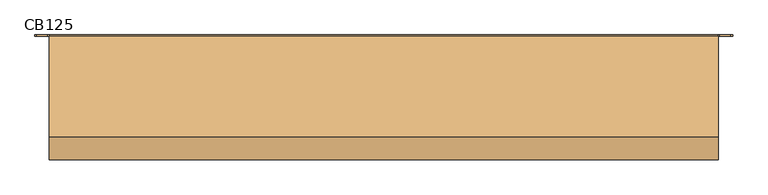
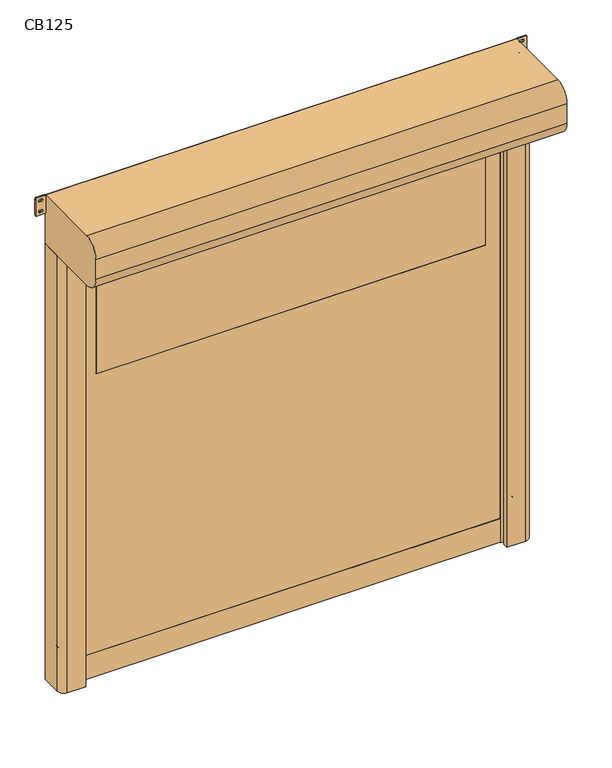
"""IFC4 building model written with IfcOpenShell, lengths in millimetres: door geometry, DO_WPB_Dynamicroll Cleanroom_BMP : CB125."""

import ifcopenshell
import ifcopenshell.guid

model = None  # the IFC model being written
_history = None  # IfcOwnerHistory: only IFC2X3 demands one
_inside = {}  # id of a spatial element -> (the spatial element, [elements in it])
_under = {}  # id of a project, library or spatial element -> (it, [spatial elements below it])
_declared = {}  # id of a project -> (the project, [libraries it declares])
_typed = {}  # id of a type object -> (the type object, [elements of that type])
_made_of = {}  # id of a material, layer set ... -> (it, [elements and type objects made of it])


def new_model(schema):
    """Start an empty IFC model of exactly this schema.

    Asked for "IFC4X3", IfcOpenShell would pick the latest addendum, in which some entities
    have other attributes; the version numbers below select the first issue.
    IFC2X3 requires an IfcOwnerHistory on every rooted entity: one is made here for all.
    """
    global model, _history
    if schema == "IFC4X3":
        model = ifcopenshell.file(schema_version=(4, 3, 0, 0))
    else:
        model = ifcopenshell.file(schema=schema)
    _inside.clear()
    _under.clear()
    _declared.clear()
    _typed.clear()
    _made_of.clear()
    _history = None
    if model.schema == "IFC2X3":
        org = make("IfcOrganization", Name="unknown")
        user = make(
            "IfcPersonAndOrganization",
            ThePerson=make("IfcPerson", FamilyName="unknown"),
            TheOrganization=org,
        )
        app = make(
            "IfcApplication",
            ApplicationDeveloper=org,
            Version="unknown",
            ApplicationFullName="unknown",
            ApplicationIdentifier="unknown",
        )
        _history = make(
            "IfcOwnerHistory",
            OwningUser=user,
            OwningApplication=app,
            ChangeAction="ADDED",
            CreationDate=0,
        )
    return model


def make(cls, **values):
    """One entity of the class cls with the attributes given. An attribute that is None is left unset."""
    return model.create_entity(
        cls, **{name: value for name, value in values.items() if value is not None}
    )


def rooted(cls, **values):
    """An entity with a GlobalId (a new one), such as an element, a storey or a relation."""
    return make(cls, GlobalId=ifcopenshell.guid.new(), OwnerHistory=_history, **values)


def si_unit(unit_type, name, prefix=None):
    """IfcSIUnit, for example si_unit("LENGTHUNIT", "METRE", prefix="MILLI")."""
    return make("IfcSIUnit", UnitType=unit_type, Prefix=prefix, Name=name)


def assignment(units):
    """IfcUnitAssignment: the units of a project."""
    return None if units is None else make("IfcUnitAssignment", Units=units)


def point(xyz):
    """IfcCartesianPoint."""
    return None if xyz is None else make("IfcCartesianPoint", Coordinates=xyz)


def direction(xyz):
    """IfcDirection."""
    return None if xyz is None else make("IfcDirection", DirectionRatios=xyz)


def frame(location, z_axis=None, x_axis=None):
    """IfcAxis2Placement3D, a coordinate frame: its origin and axes. An axis left out is left unset."""
    return make(
        "IfcAxis2Placement3D",
        Location=point(location),
        Axis=direction(z_axis),
        RefDirection=direction(x_axis),
    )


def frame_2d(location, x_axis=None):
    """IfcAxis2Placement2D, a coordinate frame in the plane: its origin and x axis."""
    return make(
        "IfcAxis2Placement2D", Location=point(location), RefDirection=direction(x_axis)
    )


def origin():
    """The frame at (0, 0, 0) with its axes left unset."""
    return frame((0.0, 0.0, 0.0))


def origin_with_axes():
    """The frame at (0, 0, 0) with the z axis (0, 0, 1) and the x axis (1, 0, 0) written out."""
    return frame((0.0, 0.0, 0.0), z_axis=(0.0, 0.0, 1.0), x_axis=(1.0, 0.0, 0.0))


def place(relative_to, where):
    """IfcLocalPlacement: puts the frame where relative to a parent placement (None: the world)."""
    return make(
        "IfcLocalPlacement", PlacementRelTo=relative_to, RelativePlacement=where
    )


def context(
    kind, dimensions, precision=None, world=None, true_north=None, identifier=None
):
    """IfcGeometricRepresentationContext, for example the 3D "Model" context."""
    return make(
        "IfcGeometricRepresentationContext",
        ContextIdentifier=identifier,
        ContextType=kind,
        CoordinateSpaceDimension=dimensions,
        Precision=precision,
        WorldCoordinateSystem=world,
        TrueNorth=true_north,
    )


def project(units=None, contexts=None):
    """IfcProject with its units and contexts."""
    return rooted(
        "IfcProject",
        Name="project",
        RepresentationContexts=contexts,
        UnitsInContext=assignment(units),
    )


def spatial(cls, under=None, at=None, **own):
    """A site, building, storey or space (cls), placed at a placement, below another one or the project."""
    s = rooted(cls, ObjectPlacement=at, **own)
    if under is not None:
        _under.setdefault(under.id(), (under, []))[1].append(s)
    return s


def polyline(points):
    """IfcPolyline through the points."""
    return make("IfcPolyline", Points=[point(p) for p in points])


def circle_curve(where, radius):
    """IfcCircle in the frame where."""
    return make("IfcCircle", Position=where, Radius=radius)


def trimmed(basis, trim1, trim2, sense, master):
    """IfcTrimmedCurve: the piece of a basis curve between two trims."""
    return make(
        "IfcTrimmedCurve",
        BasisCurve=basis,
        Trim1=trim1,
        Trim2=trim2,
        SenseAgreement=sense,
        MasterRepresentation=master,
    )


def segment(curve, same_sense, transition):
    """IfcCompositeCurveSegment."""
    return make(
        "IfcCompositeCurveSegment",
        Transition=transition,
        SameSense=same_sense,
        ParentCurve=curve,
    )


def composite_curve(segments, self_intersect=None):
    """IfcCompositeCurve: segments joined end to end."""
    return make("IfcCompositeCurve", Segments=segments, SelfIntersect=self_intersect)


def outline(outer, holes=None, kind="AREA"):
    """IfcArbitraryClosedProfileDef: a profile drawn as a closed curve; with holes, ...WithVoids."""
    if holes is None:
        return make("IfcArbitraryClosedProfileDef", ProfileType=kind, OuterCurve=outer)
    return make(
        "IfcArbitraryProfileDefWithVoids",
        ProfileType=kind,
        OuterCurve=outer,
        InnerCurves=holes,
    )


def extrude(swept, where, along, depth):
    """IfcExtrudedAreaSolid: the profile swept, set in the frame where, extruded along a direction by depth."""
    return make(
        "IfcExtrudedAreaSolid",
        SweptArea=swept,
        Position=where,
        ExtrudedDirection=direction(along),
        Depth=depth,
    )


def shape(context_of_items, identifier, shape_type, items):
    """IfcShapeRepresentation: the items that make up one representation, for example the "Body"."""
    return make(
        "IfcShapeRepresentation",
        ContextOfItems=context_of_items,
        RepresentationIdentifier=identifier,
        RepresentationType=shape_type,
        Items=items,
    )


def source(mapping_origin, context_of_items, identifier, shape_type, items):
    """IfcRepresentationMap: a shape defined once, which mapped items show again and again."""
    return make(
        "IfcRepresentationMap",
        MappingOrigin=mapping_origin,
        MappedRepresentation=shape(context_of_items, identifier, shape_type, items),
    )


def transform(
    local_origin,
    x_axis=None,
    y_axis=None,
    z_axis=None,
    scale=None,
    scale2=None,
    scale3=None,
    uniform=True,
):
    """IfcCartesianTransformationOperator3D, or its non-uniform kind. x_axis, y_axis, z_axis: its Axis1, 2, 3."""
    if uniform:
        return make(
            "IfcCartesianTransformationOperator3D",
            Axis1=direction(x_axis),
            Axis2=direction(y_axis),
            LocalOrigin=point(local_origin),
            Scale=scale,
            Axis3=direction(z_axis),
        )
    return make(
        "IfcCartesianTransformationOperator3DnonUniform",
        Axis1=direction(x_axis),
        Axis2=direction(y_axis),
        LocalOrigin=point(local_origin),
        Scale=scale,
        Axis3=direction(z_axis),
        Scale2=scale2,
        Scale3=scale3,
    )


def mapped(mapping_source, mapping_target):
    """IfcMappedItem: shows the shape of a source again, moved by a transform."""
    return make(
        "IfcMappedItem", MappingSource=mapping_source, MappingTarget=mapping_target
    )


def made_of(thing, what):
    """Note that an element or type object is made of a material, layer set ...; save() writes the relation."""
    if what is not None:
        _made_of.setdefault(what.id(), (what, []))[1].append(thing)
    return thing


def element(
    cls,
    number,
    at=None,
    inside=None,
    cuts=None,
    type_object=None,
    material=None,
    context=None,
    identifier="Body",
    shape_type=None,
    held_by="IfcProductDefinitionShape",
    body=None,
    shapes=None,
    **own,
):
    """One element of the class cls, such as IfcWall. Its Tag is "e" and its number.

    at: its placement. inside: the storey or other place that contains it. cuts: it is an
    opening in that element (IfcRelVoidsElement). A single representation is given by context,
    identifier, shape_type and body (its items); several are given by shapes. held_by: the class
    of the entity that holds the representations. save() writes the other relations.
    """
    e = rooted(cls, Tag="e%d" % number, ObjectPlacement=at, **own)
    if body is not None:
        shapes = [shape(context, identifier, shape_type, body)]
    if shapes is not None:
        e.Representation = make(held_by, Representations=shapes)
    if inside is not None:
        _inside.setdefault(inside.id(), (inside, []))[1].append(e)
    if cuts is not None:
        rooted(
            "IfcRelVoidsElement", RelatingBuildingElement=cuts, RelatedOpeningElement=e
        )
    if type_object is not None:
        _typed.setdefault(type_object.id(), (type_object, []))[1].append(e)
    return made_of(e, material)


def aggregate(whole, parts):
    """IfcRelAggregates: a whole, such as a stair, and the parts it consists of."""
    return rooted("IfcRelAggregates", RelatingObject=whole, RelatedObjects=parts)


def save(model, path):
    """Write the relations noted so far, then the file.

    IfcRelAggregates (storeys below a building ...), IfcRelContainedInSpatialStructure (elements
    in a storey), IfcRelDefinesByType, IfcRelAssociatesMaterial and IfcRelDeclares: one each for
    every whole, place, type object, material and project.
    """
    for whole, parts in _under.values():
        aggregate(whole, parts)
    for where, things in _inside.values():
        rooted(
            "IfcRelContainedInSpatialStructure",
            RelatedElements=things,
            RelatingStructure=where,
        )
    for kind, things in _typed.values():
        rooted("IfcRelDefinesByType", RelatedObjects=things, RelatingType=kind)
    for what, things in _made_of.values():
        rooted("IfcRelAssociatesMaterial", RelatedObjects=things, RelatingMaterial=what)
    for by, libraries in _declared.values():
        rooted("IfcRelDeclares", RelatingContext=by, RelatedDefinitions=libraries)
    model.write(path)


def cb125_eadb58d3(model_context):
    return source(origin(), model_context, "Body", "SweptSolid", [
        extrude(outline(composite_curve([segment(trimmed(circle_curve(frame_2d((1416.6666667, 1076.0)), 6.0), [point((1422.6666667, 1076.0))], [point((1410.6666667, 1076.0))], False, "CARTESIAN"), True, "CONTINUOUS"), segment(polyline([(1410.6666667, 1076.0), (1410.6666667, 1094.0)]), True, "CONTINUOUS"), segment(trimmed(circle_curve(frame_2d((1416.6666667, 1094.0)), 6.0), [point((1410.6666667, 1094.0))], [point((1422.6666667, 1094.0))], False, "CARTESIAN"), True, "CONTINUOUS"), segment(polyline([(1422.6666667, 1094.0), (1422.6666667, 1076.0)]), True, "CONTINUOUS")], self_intersect=False)), frame((0.0, -20.0, 0.0), z_axis=(0.0, 1.0, 0.0), x_axis=(0.0, 0.0, 1.0)), (0.0, 0.0, 1.0), 20.0),
        extrude(outline(composite_curve([segment(trimmed(circle_curve(frame_2d((783.3333333, 1076.0)), 6.0), [point((789.3333333, 1076.0))], [point((777.3333333, 1076.0))], False, "CARTESIAN"), True, "CONTINUOUS"), segment(polyline([(777.3333333, 1076.0), (777.3333333, 1094.0)]), True, "CONTINUOUS"), segment(trimmed(circle_curve(frame_2d((783.3333333, 1094.0)), 6.0), [point((777.3333333, 1094.0))], [point((789.3333333, 1094.0))], False, "CARTESIAN"), True, "CONTINUOUS"), segment(polyline([(789.3333333, 1094.0), (789.3333333, 1076.0)]), True, "CONTINUOUS")], self_intersect=False)), frame((0.0, -20.0, 0.0), z_axis=(0.0, 1.0, 0.0), x_axis=(0.0, 0.0, 1.0)), (0.0, 0.0, 1.0), 20.0),
        extrude(outline(composite_curve([segment(trimmed(circle_curve(frame_2d((2050.0, 1076.0)), 6.0), [point((2056.0, 1076.0))], [point((2044.0, 1076.0))], False, "CARTESIAN"), True, "CONTINUOUS"), segment(polyline([(2044.0, 1076.0), (2044.0, 1094.0)]), True, "CONTINUOUS"), segment(trimmed(circle_curve(frame_2d((2050.0, 1094.0)), 6.0), [point((2044.0, 1094.0))], [point((2056.0, 1094.0))], False, "CARTESIAN"), True, "CONTINUOUS"), segment(polyline([(2056.0, 1094.0), (2056.0, 1076.0)]), True, "CONTINUOUS")], self_intersect=False)), frame((0.0, -20.0, 0.0), z_axis=(0.0, 1.0, 0.0), x_axis=(0.0, 0.0, 1.0)), (0.0, 0.0, 1.0), 20.0),
        extrude(outline(composite_curve([segment(trimmed(circle_curve(frame_2d((150.0, 1076.0)), 6.0), [point((156.0, 1076.0))], [point((144.0, 1076.0))], False, "CARTESIAN"), True, "CONTINUOUS"), segment(polyline([(144.0, 1076.0), (144.0, 1094.0)]), True, "CONTINUOUS"), segment(trimmed(circle_curve(frame_2d((150.0, 1094.0)), 6.0), [point((144.0, 1094.0))], [point((156.0, 1094.0))], False, "CARTESIAN"), True, "CONTINUOUS"), segment(polyline([(156.0, 1094.0), (156.0, 1076.0)]), True, "CONTINUOUS")], self_intersect=False)), frame((0.0, -20.0, 0.0), z_axis=(0.0, 1.0, 0.0), x_axis=(0.0, 0.0, 1.0)), (0.0, 0.0, 1.0), 20.0),
        extrude(outline(composite_curve([segment(polyline([(1422.6666667, -1076.0), (1422.6666667, -1094.0)]), True, "CONTINUOUS"), segment(trimmed(circle_curve(frame_2d((1416.6666667, -1094.0)), 6.0), [point((1422.6666667, -1094.0))], [point((1410.6666667, -1094.0))], False, "CARTESIAN"), True, "CONTINUOUS"), segment(polyline([(1410.6666667, -1094.0), (1410.6666667, -1076.0)]), True, "CONTINUOUS"), segment(trimmed(circle_curve(frame_2d((1416.6666667, -1076.0)), 6.0), [point((1410.6666667, -1076.0))], [point((1422.6666667, -1076.0))], False, "CARTESIAN"), True, "CONTINUOUS")], self_intersect=False)), frame((0.0, -20.0, 0.0), z_axis=(0.0, 1.0, 0.0), x_axis=(0.0, 0.0, 1.0)), (0.0, 0.0, 1.0), 20.0),
        extrude(outline(composite_curve([segment(polyline([(789.3333333, -1076.0), (789.3333333, -1094.0)]), True, "CONTINUOUS"), segment(trimmed(circle_curve(frame_2d((783.3333333, -1094.0)), 6.0), [point((789.3333333, -1094.0))], [point((777.3333333, -1094.0))], False, "CARTESIAN"), True, "CONTINUOUS"), segment(polyline([(777.3333333, -1094.0), (777.3333333, -1076.0)]), True, "CONTINUOUS"), segment(trimmed(circle_curve(frame_2d((783.3333333, -1076.0)), 6.0), [point((777.3333333, -1076.0))], [point((789.3333333, -1076.0))], False, "CARTESIAN"), True, "CONTINUOUS")], self_intersect=False)), frame((0.0, -20.0, 0.0), z_axis=(0.0, 1.0, 0.0), x_axis=(0.0, 0.0, 1.0)), (0.0, 0.0, 1.0), 20.0),
        extrude(outline(composite_curve([segment(polyline([(2056.0, -1076.0), (2056.0, -1094.0)]), True, "CONTINUOUS"), segment(trimmed(circle_curve(frame_2d((2050.0, -1094.0)), 6.0), [point((2056.0, -1094.0))], [point((2044.0, -1094.0))], False, "CARTESIAN"), True, "CONTINUOUS"), segment(polyline([(2044.0, -1094.0), (2044.0, -1076.0)]), True, "CONTINUOUS"), segment(trimmed(circle_curve(frame_2d((2050.0, -1076.0)), 6.0), [point((2044.0, -1076.0))], [point((2056.0, -1076.0))], False, "CARTESIAN"), True, "CONTINUOUS")], self_intersect=False)), frame((0.0, -20.0, 0.0), z_axis=(0.0, 1.0, 0.0), x_axis=(0.0, 0.0, 1.0)), (0.0, 0.0, 1.0), 20.0),
        extrude(outline(composite_curve([segment(polyline([(156.0, -1076.0), (156.0, -1094.0)]), True, "CONTINUOUS"), segment(trimmed(circle_curve(frame_2d((150.0, -1094.0)), 6.0), [point((156.0, -1094.0))], [point((144.0, -1094.0))], False, "CARTESIAN"), True, "CONTINUOUS"), segment(polyline([(144.0, -1094.0), (144.0, -1076.0)]), True, "CONTINUOUS"), segment(trimmed(circle_curve(frame_2d((150.0, -1076.0)), 6.0), [point((144.0, -1076.0))], [point((156.0, -1076.0))], False, "CARTESIAN"), True, "CONTINUOUS")], self_intersect=False)), frame((0.0, -20.0, 0.0), z_axis=(0.0, 1.0, 0.0), x_axis=(0.0, 0.0, 1.0)), (0.0, 0.0, 1.0), 20.0),
        extrude(outline(composite_curve([segment(trimmed(circle_curve(frame_2d((1526.0, 929.0)), 1.0), [point((1525.0, 929.0))], [point((1526.0, 930.0))], False, "CARTESIAN"), True, "CONTINUOUS"), segment(polyline([(1526.0, 930.0), (2024.0, 930.0)]), True, "CONTINUOUS"), segment(trimmed(circle_curve(frame_2d((2024.0, 929.0)), 1.0), [point((2024.0, 930.0))], [point((2025.0, 929.0))], False, "CARTESIAN"), True, "CONTINUOUS"), segment(polyline([(2025.0, 929.0), (2025.0, -929.0)]), True, "CONTINUOUS"), segment(trimmed(circle_curve(frame_2d((2024.0, -929.0)), 1.0), [point((2025.0, -929.0))], [point((2024.0, -930.0))], False, "CARTESIAN"), True, "CONTINUOUS"), segment(polyline([(2024.0, -930.0), (1526.0, -930.0)]), True, "CONTINUOUS"), segment(trimmed(circle_curve(frame_2d((1526.0, -929.0)), 1.0), [point((1526.0, -930.0))], [point((1525.0, -929.0))], False, "CARTESIAN"), True, "CONTINUOUS"), segment(polyline([(1525.0, -929.0), (1525.0, 929.0)]), True, "CONTINUOUS")], self_intersect=False)), frame((0.0, -83.5, 0.0), z_axis=(0.0, 1.0, 0.0), x_axis=(0.0, 0.0, 1.0)), (0.0, 0.0, 1.0), 7.0),
        extrude(outline(polyline([(120.0, -1012.0), (120.0, 1012.0), (2325.0, 1012.0), (2325.0, -1012.0), (120.0, -1012.0)]), holes=[composite_curve([segment(trimmed(circle_curve(frame_2d((1526.0, 929.0)), 1.0), [point((1526.0, 930.0))], [point((1525.0, 929.0))], True, "CARTESIAN"), True, "CONTINUOUS"), segment(polyline([(1525.0, 929.0), (1525.0, -929.0)]), True, "CONTINUOUS"), segment(trimmed(circle_curve(frame_2d((1526.0, -929.0)), 1.0), [point((1525.0, -929.0))], [point((1526.0, -930.0))], True, "CARTESIAN"), True, "CONTINUOUS"), segment(polyline([(1526.0, -930.0), (2024.0, -930.0)]), True, "CONTINUOUS"), segment(trimmed(circle_curve(frame_2d((2024.0, -929.0)), 1.0), [point((2024.0, -930.0))], [point((2025.0, -929.0))], True, "CARTESIAN"), True, "CONTINUOUS"), segment(polyline([(2025.0, -929.0), (2025.0, 929.0)]), True, "CONTINUOUS"), segment(trimmed(circle_curve(frame_2d((2024.0, 929.0)), 1.0), [point((2025.0, 929.0))], [point((2024.0, 930.0))], True, "CARTESIAN"), True, "CONTINUOUS"), segment(polyline([(2024.0, 930.0), (1526.0, 930.0)]), True, "CONTINUOUS")], self_intersect=False)]), frame((0.0, -83.5, 0.0), z_axis=(0.0, 1.0, 0.0), x_axis=(0.0, 0.0, 1.0)), (0.0, 0.0, 1.0), 7.0),
        extrude(outline(polyline([(-1012.0, -74.5), (1012.0, -74.5), (1012.0, -85.5), (-1012.0, -85.5), (-1012.0, -74.5)])), origin_with_axes(), (0.0, 0.0, 1.0), 120.0),
        extrude(outline(composite_curve([segment(trimmed(circle_curve(frame_2d((2363.75, 1130.75)), 5.75), [point((2363.75, 1125.0))], [point((2358.0, 1130.75))], False, "CARTESIAN"), True, "CONTINUOUS"), segment(polyline([(2358.0, 1130.75), (2358.0, 1168.25)]), True, "CONTINUOUS"), segment(trimmed(circle_curve(frame_2d((2363.75, 1168.25)), 5.75), [point((2358.0, 1168.25))], [point((2363.75, 1174.0))], False, "CARTESIAN"), True, "CONTINUOUS"), segment(polyline([(2363.75, 1174.0), (2444.25, 1174.0)]), True, "CONTINUOUS"), segment(trimmed(circle_curve(frame_2d((2444.25, 1168.25)), 5.75), [point((2444.25, 1174.0))], [point((2450.0, 1168.25))], False, "CARTESIAN"), True, "CONTINUOUS"), segment(polyline([(2450.0, 1168.25), (2450.0, 1130.75)]), True, "CONTINUOUS"), segment(trimmed(circle_curve(frame_2d((2444.25, 1130.75)), 5.75), [point((2450.0, 1130.75))], [point((2444.25, 1125.0))], False, "CARTESIAN"), True, "CONTINUOUS"), segment(polyline([(2444.25, 1125.0), (2363.75, 1125.0)]), True, "CONTINUOUS")], self_intersect=False), holes=[composite_curve([segment(trimmed(circle_curve(frame_2d((2431.5, 1153.75)), 5.75), [point((2437.25, 1153.75))], [point((2425.75, 1153.75))], True, "CARTESIAN"), True, "CONTINUOUS"), segment(polyline([(2425.75, 1153.75), (2425.75, 1145.25)]), True, "CONTINUOUS"), segment(trimmed(circle_curve(frame_2d((2431.5, 1145.25)), 5.75), [point((2425.75, 1145.25))], [point((2437.25, 1145.25))], True, "CARTESIAN"), True, "CONTINUOUS"), segment(polyline([(2437.25, 1145.25), (2437.25, 1153.75)]), True, "CONTINUOUS")], self_intersect=False), composite_curve([segment(trimmed(circle_curve(frame_2d((2376.5, 1153.75)), 5.75), [point((2382.25, 1153.75))], [point((2370.75, 1153.75))], True, "CARTESIAN"), True, "CONTINUOUS"), segment(polyline([(2370.75, 1153.75), (2370.75, 1145.25)]), True, "CONTINUOUS"), segment(trimmed(circle_curve(frame_2d((2376.5, 1145.25)), 5.75), [point((2370.75, 1145.25))], [point((2382.25, 1145.25))], True, "CARTESIAN"), True, "CONTINUOUS"), segment(polyline([(2382.25, 1145.25), (2382.25, 1153.75)]), True, "CONTINUOUS")], self_intersect=False)]), frame((0.0, -5.0, 0.0), z_axis=(0.0, 1.0, 0.0), x_axis=(0.0, 0.0, 1.0)), (0.0, 0.0, 1.0), 5.0),
        extrude(outline(composite_curve([segment(trimmed(circle_curve(frame_2d((2363.75, -1168.25)), 5.75), [point((2363.75, -1174.0))], [point((2358.0, -1168.25))], False, "CARTESIAN"), True, "CONTINUOUS"), segment(polyline([(2358.0, -1168.25), (2358.0, -1130.75)]), True, "CONTINUOUS"), segment(trimmed(circle_curve(frame_2d((2363.75, -1130.75)), 5.75), [point((2358.0, -1130.75))], [point((2363.75, -1125.0))], False, "CARTESIAN"), True, "CONTINUOUS"), segment(polyline([(2363.75, -1125.0), (2444.25, -1125.0)]), True, "CONTINUOUS"), segment(trimmed(circle_curve(frame_2d((2444.25, -1130.75)), 5.75), [point((2444.25, -1125.0))], [point((2450.0, -1130.75))], False, "CARTESIAN"), True, "CONTINUOUS"), segment(polyline([(2450.0, -1130.75), (2450.0, -1168.25)]), True, "CONTINUOUS"), segment(trimmed(circle_curve(frame_2d((2444.25, -1168.25)), 5.75), [point((2450.0, -1168.25))], [point((2444.25, -1174.0))], False, "CARTESIAN"), True, "CONTINUOUS"), segment(polyline([(2444.25, -1174.0), (2363.75, -1174.0)]), True, "CONTINUOUS")], self_intersect=False), holes=[composite_curve([segment(trimmed(circle_curve(frame_2d((2431.5, -1145.25)), 5.75), [point((2437.25, -1145.25))], [point((2425.75, -1145.25))], True, "CARTESIAN"), True, "CONTINUOUS"), segment(polyline([(2425.75, -1145.25), (2425.75, -1153.75)]), True, "CONTINUOUS"), segment(trimmed(circle_curve(frame_2d((2431.5, -1153.75)), 5.75), [point((2425.75, -1153.75))], [point((2437.25, -1153.75))], True, "CARTESIAN"), True, "CONTINUOUS"), segment(polyline([(2437.25, -1153.75), (2437.25, -1145.25)]), True, "CONTINUOUS")], self_intersect=False), composite_curve([segment(trimmed(circle_curve(frame_2d((2376.5, -1145.25)), 5.75), [point((2382.25, -1145.25))], [point((2370.75, -1145.25))], True, "CARTESIAN"), True, "CONTINUOUS"), segment(polyline([(2370.75, -1145.25), (2370.75, -1153.75)]), True, "CONTINUOUS"), segment(trimmed(circle_curve(frame_2d((2376.5, -1153.75)), 5.75), [point((2370.75, -1153.75))], [point((2382.25, -1153.75))], True, "CARTESIAN"), True, "CONTINUOUS"), segment(polyline([(2382.25, -1153.75), (2382.25, -1145.25)]), True, "CONTINUOUS")], self_intersect=False)]), frame((0.0, -5.0, 0.0), z_axis=(0.0, 1.0, 0.0), x_axis=(0.0, 0.0, 1.0)), (0.0, 0.0, 1.0), 5.0),
        extrude(outline(composite_curve([segment(polyline([(-1125.0, 0.0), (-1015.0, 0.0), (-1015.0, -64.2857143), (-1035.0, -70.0), (-1000.0, -70.0), (-1000.0, -76.5), (-1020.0, -76.5), (-1020.0, -83.5), (-1000.0, -83.5), (-1000.0, -90.0), (-1035.0, -90.0), (-1035.0, -105.0), (-1005.0, -105.0), (-1005.0, -130.0), (-1095.0, -130.0)]), True, "CONTINUOUS"), segment(trimmed(circle_curve(frame_2d((-1095.0, -100.0)), 30.0), [point((-1095.0, -130.0))], [point((-1125.0, -100.0))], False, "CARTESIAN"), True, "CONTINUOUS"), segment(polyline([(-1125.0, -100.0), (-1125.0, 0.0)]), True, "CONTINUOUS")], self_intersect=False)), origin_with_axes(), (0.0, 0.0, 1.0), 2200.0),
        extrude(outline(composite_curve([segment(polyline([(1125.0, 0.0), (1125.0, -100.0)]), True, "CONTINUOUS"), segment(trimmed(circle_curve(frame_2d((1095.0, -100.0)), 30.0), [point((1125.0, -100.0))], [point((1095.0, -130.0))], False, "CARTESIAN"), True, "CONTINUOUS"), segment(polyline([(1095.0, -130.0), (1005.0, -130.0), (1005.0, -105.0), (1035.0, -105.0), (1035.0, -90.0), (1000.0, -90.0), (1000.0, -83.5), (1020.0, -83.5), (1020.0, -76.5), (1000.0, -76.5), (1000.0, -70.0), (1035.0, -70.0), (1015.0, -64.2857143), (1015.0, 0.0), (1125.0, 0.0)]), True, "CONTINUOUS")], self_intersect=False)), origin_with_axes(), (0.0, 0.0, 1.0), 2200.0),
        extrude(outline(composite_curve([segment(trimmed(circle_curve(frame_2d((-5.0, 2205.0)), 5.0), [point((0.0, 2205.0))], [point((-5.0, 2200.0))], False, "CARTESIAN"), True, "CONTINUOUS"), segment(polyline([(-5.0, 2200.0), (-345.0, 2200.0)]), True, "CONTINUOUS"), segment(trimmed(circle_curve(frame_2d((-345.0, 2275.0)), 75.0), [point((-345.0, 2200.0))], [point((-420.0, 2275.0))], False, "CARTESIAN"), True, "CONTINUOUS"), segment(polyline([(-420.0, 2275.0), (-420.0, 2375.0)]), True, "CONTINUOUS"), segment(trimmed(circle_curve(frame_2d((-345.0, 2375.0)), 75.0), [point((-420.0, 2375.0))], [point((-345.0, 2450.0))], False, "CARTESIAN"), True, "CONTINUOUS"), segment(polyline([(-345.0, 2450.0), (-5.0, 2450.0)]), True, "CONTINUOUS"), segment(trimmed(circle_curve(frame_2d((-5.0, 2445.0)), 5.0), [point((-5.0, 2450.0))], [point((0.0, 2445.0))], False, "CARTESIAN"), True, "CONTINUOUS"), segment(polyline([(0.0, 2445.0), (0.0, 2205.0)]), True, "CONTINUOUS")], self_intersect=False)), frame((-1125.0, 0.0, 0.0), z_axis=(1.0, 0.0, 0.0), x_axis=(0.0, 1.0, 0.0)), (0.0, 0.0, 1.0), 2250.0),
    ])


if __name__ == "__main__":
    model = new_model("IFC4")
    model_context = context("Model", 3, world=origin())
    ifc_project = project(units=[si_unit("LENGTHUNIT", "METRE", prefix="MILLI")], contexts=[model_context])
    site = spatial("IfcSite", under=ifc_project)
    building = spatial("IfcBuilding", under=site)
    placement = place(None, origin())
    cb125_shape = cb125_eadb58d3(model_context)
    element("IfcDoor", 1, ObjectType="DO_WPB_Dynamicroll Cleanroom_BMP : CB125", at=placement, inside=building, context=model_context, shape_type="MappedRepresentation", body=[
        mapped(cb125_shape, transform((0.0, 0.0, 0.0), x_axis=(1.0, 0.0, 0.0), y_axis=(0.0, 1.0, 0.0), z_axis=(0.0, 0.0, 1.0))),
    ])
    save(model, "model.ifc")
